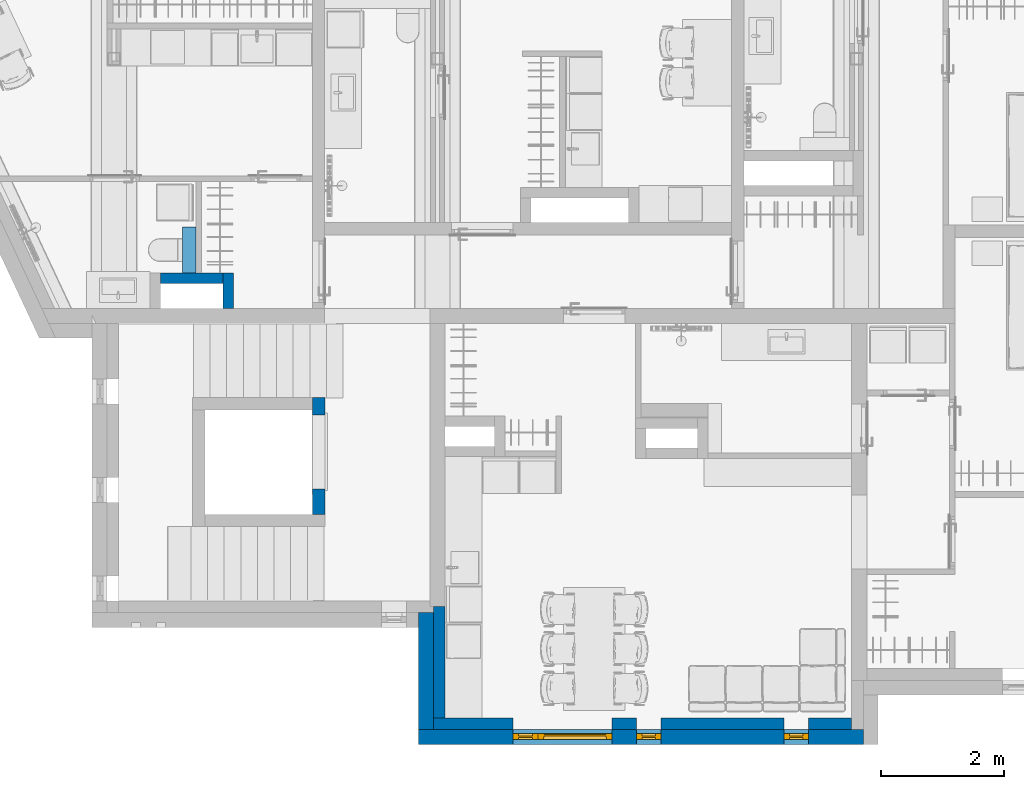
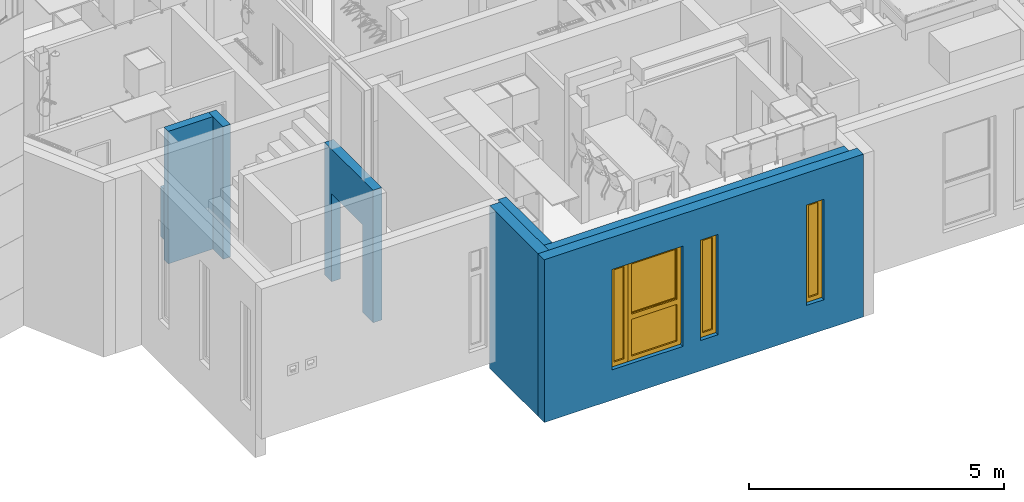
# One storey, part 3 of 125: 8 walls, 4 windows, 18 openings.
"""IFC2X3 building model written with IfcOpenShell, lengths in millimetres."""

from ifc_helpers import new_model, entity, si_unit, converted_unit, direction, frame, frame_2d, origin, origin_2d_with_axis, place, context, subcontext, project, spatial, rectangle, extrude, faceted_brep, source, transform, mapped, material, material_list, layer, layer_set, layer_usage, type_object, type_shapes, element, fill, save


model = new_model("IFC2X3")

# Units and contexts
model_context = context("Model", 3, precision=0.01, world=origin(), true_north=direction((6.123233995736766e-17, 1.0)))
plan_context = context("Plan", 3, precision=0.01, world=origin(), true_north=direction((6.123233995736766e-17, 1.0)))
body_context = subcontext(model_context, "Body", "Model", "MODEL_VIEW")
ifc_project = project(units=[si_unit("LENGTHUNIT", "METRE", prefix="MILLI"), converted_unit("PLANEANGLEUNIT", "DEGREE", entity("IfcPlaneAngleMeasure", 0.017453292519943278), si_unit("PLANEANGLEUNIT", "RADIAN"), dimensions=[0, 0, 0, 0, 0, 0, 0]), si_unit("AREAUNIT", "SQUARE_METRE")], contexts=[model_context, plan_context])

# Site, building, storey
site_placement = place(None, origin())
site = spatial("IfcSite", under=ifc_project, at=site_placement, Name="Default", CompositionType="ELEMENT")
building_placement = place(site_placement, origin())
building = spatial("IfcBuilding", under=site, at=building_placement, CompositionType="ELEMENT")
storey_placement = place(building_placement, frame((0.0, 0.0, 3125.0)))
storey = spatial("IfcBuildingStorey", under=building, at=storey_placement, Name="2K", CompositionType="ELEMENT", Elevation=3125.0)

# Wall, openings
ifc_material_1 = material(Name="_K. Väisviimistlus. Krohv. Valge")
ifc_layer_1 = layer(ifc_material_1, 5.0)
ifc_material_2 = material(Name="_K. Müüritis. Väikeplokk. Betoon-õõnesplokk")
ifc_layer_2 = layer(ifc_material_2, 190.00000000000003)
ifc_layer_3 = layer(ifc_material_1, 5.0)
ifc_layer_set_1 = layer_set([ifc_layer_1, ifc_layer_2, ifc_layer_3], Name="Basic Wall:SS-01. 190")
ifc_layer_usage_1 = layer_usage(ifc_layer_set_1, "AXIS2", "NEGATIVE", 100.00000000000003)
wall_type_1 = type_object("IfcWallType", Name="Basic Wall:SS-01. 190", PredefinedType="STANDARD", material=ifc_layer_set_1)
wall_1_placement = place(storey_placement, frame((3249.9935349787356, 5199.998433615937, 0.0), z_axis=(0.0, 0.0, 1.0), x_axis=(0.0, -1.0, 0.0)))
wall_1 = element("IfcWallStandardCase", 1, at=wall_1_placement, inside=storey, type_object=wall_type_1, material=ifc_layer_usage_1, Name="Basic Wall:SS-01. 190", ObjectType="Basic Wall:SS-01. 190", context=body_context, shape_type="SweptSolid", body=[
    extrude(rectangle(XDim=1900.0045776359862, YDim=200.0, at=frame_2d((950.0022888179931, 0.0), x_axis=(1.0, 0.0))), origin(), (0.0, 0.0, 1.0), 3169.9999999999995),
])
opening_1_placement = place(wall_1_placement, frame((5199.998433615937, -3249.9935349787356, 0.0)))
element("IfcOpeningElement", 2, at=opening_1_placement, cuts=wall_1, Name="Basic Wall:SS-01. 190", ObjectType="Opening", context=body_context, shape_type="SweptSolid", body=[
    extrude(rectangle(XDim=2100.0000000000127, YDim=1200.0, at=frame_2d((-5.684341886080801e-13, 0.0), x_axis=(1.0, 0.0))), frame((-4320.0, 1825.993534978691, 1050.0), z_axis=(0.0, 1.0, 0.0), x_axis=(0.0, 0.0, 1.0)), (0.0, 0.0, 1.0), 3048.0),
])
opening_2_placement = place(wall_1_placement, frame((5199.998433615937, -3249.9935349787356, 3170.0)))
element("IfcOpeningElement", 3, at=opening_2_placement, cuts=wall_1, Name="Basic Wall:SS-01. 190", ObjectType="Opening", context=body_context, shape_type="SweptSolid", body=[
    extrude(rectangle(XDim=2100.000000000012, YDim=1200.0, at=origin_2d_with_axis()), frame((-4320.0, 1825.9935349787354, 1050.0), z_axis=(0.0, 1.0, 0.0), x_axis=(0.0, 0.0, 1.0)), (0.0, 0.0, 1.0), 3048.0),
])

ifc_layer_4 = layer(ifc_material_2, 190.00000000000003)
ifc_layer_set_2 = layer_set([ifc_layer_4], Name="Basic Wall:Columbia 190mm")
ifc_layer_usage_2 = layer_usage(ifc_layer_set_2, "AXIS2", "NEGATIVE", 95.00000000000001)
wall_type_2 = type_object("IfcWallType", Name="Basic Wall:Columbia 190mm", PredefinedType="STANDARD", material=ifc_layer_set_2)
wall_2_placement = place(storey_placement, frame((11900.0, -95.0, 0.0), z_axis=(0.0, 0.0, 1.0), x_axis=(-1.0, 0.0, 0.0)))
wall_2 = element("IfcWallStandardCase", 4, at=wall_2_placement, inside=storey, type_object=wall_type_2, material=ifc_layer_usage_2, Name="Basic Wall:Columbia 190mm", ObjectType="Basic Wall:Columbia 190mm", context=body_context, shape_type="SweptSolid", body=[
    extrude(rectangle(XDim=6790.004939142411, YDim=190.00000000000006, at=frame_2d((3395.0024695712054, 7.105427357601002e-15), x_axis=(-1.0, 0.0))), origin(), (0.0, 0.0, 1.0), 3169.9999999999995),
])
opening_3_placement = place(wall_2_placement, frame((11900.0, -95.0, 0.0)))
element("IfcOpeningElement", 5, at=opening_3_placement, cuts=wall_2, Name="Basic Wall:Columbia 190mm", ObjectType="Opening", context=body_context, shape_type="Brep", body=[
    faceted_brep([(-10800.0, 450.0, 2400.0), (-10800.0, -244.0, 2400.0), (-10800.0, -244.0, 0.0), (-10800.0, 340.0, 0.0), (-10800.0, 350.0, 0.0), (-10800.0, 450.0, 0.0), (-11200.0, 450.0, 2400.0), (-11200.0, -244.0, 2400.0), (-11200.0, 450.0, 0.0), (-11200.0, 350.0, 0.0), (-11200.0, 340.0, 0.0), (-11200.0, -244.0, 0.0)], [[[0, 1, 2, 3, 4, 5]], [[6, 7, 1, 0]], [[8, 9, 10, 11, 7, 6]], [[5, 4, 3, 2, 11, 10, 9, 8]], [[6, 0, 5, 8]], [[7, 11, 2, 1]]]),
])
opening_4_placement = place(wall_2_placement, frame((11900.0, -95.0, 0.0)))
element("IfcOpeningElement", 6, at=opening_4_placement, cuts=wall_2, Name="Basic Wall:Columbia 190mm", ObjectType="Opening", context=body_context, shape_type="Brep", body=[
    faceted_brep([(-8405.0, 450.0, 2400.0), (-8405.0, -244.0, 2400.0), (-8405.0, -244.0, 0.0), (-8405.0, 340.0, 0.0), (-8405.0, 350.0, 0.0), (-8405.0, 450.0, 0.0), (-8805.0, 450.0, 2400.0), (-8805.0, -244.0, 2400.0), (-8805.0, 450.0, 0.0), (-8805.0, 350.0, 0.0), (-8805.0, 340.0, 0.0), (-8805.0, -244.0, 0.0)], [[[0, 1, 2, 3, 4, 5]], [[6, 7, 1, 0]], [[8, 9, 10, 11, 7, 6]], [[5, 4, 3, 2, 11, 10, 9, 8]], [[6, 0, 5, 8]], [[7, 11, 2, 1]]]),
])
opening_5_placement = place(wall_2_placement, frame((11900.0, -95.0, 0.0)))
element("IfcOpeningElement", 7, at=opening_5_placement, cuts=wall_2, Name="Basic Wall:Columbia 190mm", ObjectType="Opening", context=body_context, shape_type="Brep", body=[
    faceted_brep([(-6805.0, 450.0, 2400.0), (-6805.0, -244.0, 2400.0), (-6805.0, -244.0, 0.0), (-6805.0, 340.0, 0.0), (-6805.0, 350.0, 0.0), (-6805.0, 450.0, 0.0), (-8005.0, 450.0, 2400.0), (-8005.0, -244.0, 2400.0), (-8005.0, 450.0, 0.0), (-8005.0, 350.0, 0.0), (-8005.0, 340.0, 0.0), (-8005.0, -244.0, 0.0)], [[[0, 1, 2, 3, 4, 5]], [[6, 7, 1, 0]], [[8, 9, 10, 11, 7, 6]], [[5, 4, 3, 2, 11, 10, 9, 8]], [[6, 0, 5, 8]], [[7, 11, 2, 1]]]),
])
opening_6_placement = place(wall_2_placement, frame((11900.0, -95.0, 3170.0)))
element("IfcOpeningElement", 8, at=opening_6_placement, cuts=wall_2, Name="Basic Wall:Columbia 190mm", ObjectType="Opening", context=body_context, shape_type="Brep", body=[
    faceted_brep([(-9490.0, 450.0, 2400.0), (-9490.0, -244.0, 2400.0), (-9490.0, -244.0, 0.0), (-9490.0, 340.0, 0.0), (-9490.0, 350.0, 0.0), (-9490.0, 450.0, 0.0), (-10690.0, 450.0, 2400.0), (-10690.0, -244.0, 2400.0), (-10690.0, 450.0, 0.0), (-10690.0, 350.0, 0.0), (-10690.0, 340.0, 0.0), (-10690.0, -244.0, 0.0)], [[[0, 1, 2, 3, 4, 5]], [[6, 7, 1, 0]], [[8, 9, 10, 11, 7, 6]], [[5, 4, 3, 2, 11, 10, 9, 8]], [[6, 0, 5, 8]], [[7, 11, 2, 1]]]),
])
opening_7_placement = place(wall_2_placement, frame((11900.0, -95.0, 3170.0)))
element("IfcOpeningElement", 9, at=opening_7_placement, cuts=wall_2, Name="Basic Wall:Columbia 190mm", ObjectType="Opening", context=body_context, shape_type="Brep", body=[
    faceted_brep([(-8390.0, 450.0, 2400.0), (-8390.0, -244.0, 2400.0), (-8390.0, -244.0, 0.0), (-8390.0, 340.0, 0.0), (-8390.0, 350.0, 0.0), (-8390.0, 450.0, 0.0), (-8790.0, 450.0, 2400.0), (-8790.0, -244.0, 2400.0), (-8790.0, 450.0, 0.0), (-8790.0, 350.0, 0.0), (-8790.0, 340.0, 0.0), (-8790.0, -244.0, 0.0)], [[[0, 1, 2, 3, 4, 5]], [[6, 7, 1, 0]], [[8, 9, 10, 11, 7, 6]], [[5, 4, 3, 2, 11, 10, 9, 8]], [[6, 0, 5, 8]], [[7, 11, 2, 1]]]),
])
opening_8_placement = place(wall_2_placement, frame((11900.0, -95.0, 3170.0)))
element("IfcOpeningElement", 10, at=opening_8_placement, cuts=wall_2, Name="Basic Wall:Columbia 190mm", ObjectType="Opening", context=body_context, shape_type="Brep", body=[
    faceted_brep([(-6010.0, 450.0, 2400.0), (-6010.0, -244.0, 2400.0), (-6010.0, -244.0, 0.0), (-6010.0, 340.0, 0.0), (-6010.0, 350.0, 0.0), (-6010.0, 450.0, 0.0), (-6410.0, 450.0, 2400.0), (-6410.0, -244.0, 2400.0), (-6410.0, 450.0, 0.0), (-6410.0, 350.0, 0.0), (-6410.0, 340.0, 0.0), (-6410.0, -244.0, 0.0)], [[[0, 1, 2, 3, 4, 5]], [[6, 7, 1, 0]], [[8, 9, 10, 11, 7, 6]], [[5, 4, 3, 2, 11, 10, 9, 8]], [[6, 0, 5, 8]], [[7, 11, 2, 1]]]),
])
opening_9_placement = place(wall_2_placement, frame((11900.0, -95.0, 3170.0)))
element("IfcOpeningElement", 11, at=opening_9_placement, cuts=wall_2, Name="Basic Wall:Columbia 190mm", ObjectType="Opening", context=body_context, shape_type="Brep", body=[
    faceted_brep([(-9090.0, 450.0, 2400.0), (-9090.0, -244.0, 2400.0), (-9090.0, -244.0, 0.0), (-9090.0, 340.0, 0.0), (-9090.0, 350.0, 0.0), (-9090.0, 450.0, 0.0), (-9490.0, 450.0, 2400.0), (-9490.0, -244.0, 2400.0), (-9490.0, 450.0, 0.0), (-9490.0, 350.0, 0.0), (-9490.0, 340.0, 0.0), (-9490.0, -244.0, 0.0)], [[[0, 1, 2, 3, 4, 5]], [[6, 7, 1, 0]], [[8, 9, 10, 11, 7, 6]], [[5, 4, 3, 2, 11, 10, 9, 8]], [[6, 0, 5, 8]], [[7, 11, 2, 1]]]),
])
opening_10_placement = place(wall_2_placement, frame((11900.0, -95.0, 0.0)))
element("IfcOpeningElement", 12, at=opening_10_placement, cuts=wall_2, Name="Basic Wall:Columbia 190mm", ObjectType="Opening", context=body_context, shape_type="Brep", body=[
    faceted_brep([(-6405.0, 450.0, 2400.0), (-6405.0, -244.0, 2400.0), (-6405.0, -244.0, 0.0), (-6405.0, 340.0, 0.0), (-6405.0, 350.0, 0.0), (-6405.0, 450.0, 0.0), (-6805.0, 450.0, 2400.0), (-6805.0, -244.0, 2400.0), (-6805.0, 450.0, 0.0), (-6805.0, 350.0, 0.0), (-6805.0, 340.0, 0.0), (-6805.0, -244.0, 0.0)], [[[0, 1, 2, 3, 4, 5]], [[6, 7, 1, 0]], [[8, 9, 10, 11, 7, 6]], [[5, 4, 3, 2, 11, 10, 9, 8]], [[6, 0, 5, 8]], [[7, 11, 2, 1]]]),
])

# Wall
ifc_layer_usage_3 = layer_usage(ifc_layer_set_2, "AXIS2", "NEGATIVE", 95.00000000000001)
wall_3_placement = place(storey_placement, frame((5204.995060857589, 0.0, 0.0), z_axis=(0.0, 0.0, 1.0), x_axis=(0.0, 1.0, 0.0)))
element("IfcWallStandardCase", 13, at=wall_3_placement, inside=storey, type_object=wall_type_2, material=ifc_layer_usage_3, Name="Basic Wall:Columbia 190mm", ObjectType="Basic Wall:Columbia 190mm", context=body_context, shape_type="SweptSolid", body=[
    extrude(rectangle(XDim=1804.9999999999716, YDim=190.0000000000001, at=frame_2d((902.4999999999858, -8.526512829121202e-14), x_axis=(-1.0, 0.0))), origin(), (0.0, 0.0, 1.0), 3169.9999999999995),
])

# Wall, openings, windows
ifc_layer_5 = layer(ifc_material_1, 10.0)
ifc_material_3 = material(Name="_K. Soojustus. EPS Silver")
ifc_layer_6 = layer(ifc_material_3, 230.0)
ifc_layer_set_3 = layer_set([ifc_layer_5, ifc_layer_6], Name="Basic Wall:VS-01")
ifc_layer_usage_4 = layer_usage(ifc_layer_set_3, "AXIS2", "NEGATIVE", 120.0)
wall_type_3 = type_object("IfcWallType", Name="Basic Wall:VS-01", PredefinedType="STANDARD", material=ifc_layer_set_3)
wall_4_placement = place(storey_placement, frame((12090.0, -310.0, -725.0), z_axis=(0.0, 0.0, 1.0), x_axis=(-1.0, 0.0, 0.0)))
wall_4 = element("IfcWallStandardCase", 14, at=wall_4_placement, inside=storey, type_object=wall_type_3, material=ifc_layer_usage_4, Name="Basic Wall:VS-01", ObjectType="Basic Wall:VS-01", context=body_context, shape_type="SweptSolid", body=[
    extrude(rectangle(XDim=7220.000000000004, YDim=240.00000000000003, at=frame_2d((3610.000000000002, 1.4210854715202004e-14), x_axis=(-1.0, 0.0))), origin(), (0.0, 0.0, 1.0), 3895.0000000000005),
])
opening_11_placement = place(wall_4_placement, frame((12090.0, -310.0, 3895.0)))
element("IfcOpeningElement", 15, at=opening_11_placement, cuts=wall_4, Name="Basic Wall:VS-01", ObjectType="Opening", context=body_context, shape_type="Brep", body=[
    faceted_brep([(-9490.0, 450.0, 2400.0), (-9490.0, -244.0, 2400.0), (-9490.0, -244.0, 0.0), (-9490.0, 340.0, 0.0), (-9490.0, 350.0, 0.0), (-9490.0, 450.0, 0.0), (-10690.0, 450.0, 2400.0), (-10690.0, -244.0, 2400.0), (-10690.0, 450.0, 0.0), (-10690.0, 350.0, 0.0), (-10690.0, 340.0, 0.0), (-10690.0, -244.0, 0.0)], [[[0, 1, 2, 3, 4, 5]], [[6, 7, 1, 0]], [[8, 9, 10, 11, 7, 6]], [[5, 4, 3, 2, 11, 10, 9, 8]], [[6, 0, 5, 8]], [[7, 11, 2, 1]]]),
])
opening_12_placement = place(wall_4_placement, frame((12090.0, -310.0, 3895.0)))
element("IfcOpeningElement", 16, at=opening_12_placement, cuts=wall_4, Name="Basic Wall:VS-01", ObjectType="Opening", context=body_context, shape_type="Brep", body=[
    faceted_brep([(-8390.0, 450.0, 2400.0), (-8390.0, -244.0, 2400.0), (-8390.0, -244.0, 0.0), (-8390.0, 340.0, 0.0), (-8390.0, 350.0, 0.0), (-8390.0, 450.0, 0.0), (-8790.0, 450.0, 2400.0), (-8790.0, -244.0, 2400.0), (-8790.0, 450.0, 0.0), (-8790.0, 350.0, 0.0), (-8790.0, 340.0, 0.0), (-8790.0, -244.0, 0.0)], [[[0, 1, 2, 3, 4, 5]], [[6, 7, 1, 0]], [[8, 9, 10, 11, 7, 6]], [[5, 4, 3, 2, 11, 10, 9, 8]], [[6, 0, 5, 8]], [[7, 11, 2, 1]]]),
])
opening_13_placement = place(wall_4_placement, frame((12090.0, -310.0, 3895.0)))
element("IfcOpeningElement", 17, at=opening_13_placement, cuts=wall_4, Name="Basic Wall:VS-01", ObjectType="Opening", context=body_context, shape_type="Brep", body=[
    faceted_brep([(-6010.0, 450.0, 2400.0), (-6010.0, -244.0, 2400.0), (-6010.0, -244.0, 0.0), (-6010.0, 340.0, 0.0), (-6010.0, 350.0, 0.0), (-6010.0, 450.0, 0.0), (-6410.0, 450.0, 2400.0), (-6410.0, -244.0, 2400.0), (-6410.0, 450.0, 0.0), (-6410.0, 350.0, 0.0), (-6410.0, 340.0, 0.0), (-6410.0, -244.0, 0.0)], [[[0, 1, 2, 3, 4, 5]], [[6, 7, 1, 0]], [[8, 9, 10, 11, 7, 6]], [[5, 4, 3, 2, 11, 10, 9, 8]], [[6, 0, 5, 8]], [[7, 11, 2, 1]]]),
])
opening_14_placement = place(wall_4_placement, frame((12090.0, -310.0, 3895.0)))
element("IfcOpeningElement", 18, at=opening_14_placement, cuts=wall_4, Name="Basic Wall:VS-01", ObjectType="Opening", context=body_context, shape_type="Brep", body=[
    faceted_brep([(-9090.0, 450.0, 2400.0), (-9090.0, -244.0, 2400.0), (-9090.0, -244.0, 0.0), (-9090.0, 340.0, 0.0), (-9090.0, 350.0, 0.0), (-9090.0, 450.0, 0.0), (-9490.0, 450.0, 2400.0), (-9490.0, -244.0, 2400.0), (-9490.0, 450.0, 0.0), (-9490.0, 350.0, 0.0), (-9490.0, 340.0, 0.0), (-9490.0, -244.0, 0.0)], [[[0, 1, 2, 3, 4, 5]], [[6, 7, 1, 0]], [[8, 9, 10, 11, 7, 6]], [[5, 4, 3, 2, 11, 10, 9, 8]], [[6, 0, 5, 8]], [[7, 11, 2, 1]]]),
])
opening_15_placement = place(wall_4_placement, frame((12090.0, -310.0, 725.0), z_axis=(0.0, 0.0, 1.0), x_axis=(-1.0, 0.0, 0.0)))
opening_15 = element("IfcOpeningElement", 19, at=opening_15_placement, cuts=wall_4, Name="Basic Wall:VS-01", ObjectType="Opening", context=body_context, shape_type="Brep", body=[
    faceted_brep([(10800.0, -450.0, 2400.0), (10800.0, 244.0, 2400.0), (10800.0, 244.0, 0.0), (10800.0, -340.0, 0.0), (10800.0, -350.0, 0.0), (10800.0, -450.0, 0.0), (11200.0, -450.0, 2400.0), (11200.0, 244.0, 2400.0), (11200.0, -450.0, 0.0), (11200.0, -350.0, 0.0), (11200.0, -340.0, 0.0), (11200.0, 244.0, 0.0)], [[[0, 1, 2, 3, 4, 5]], [[6, 7, 1, 0]], [[8, 9, 10, 11, 7, 6]], [[5, 4, 3, 2, 11, 10, 9, 8]], [[6, 0, 5, 8]], [[7, 11, 2, 1]]]),
])
opening_16_placement = place(wall_4_placement, frame((12090.0, -310.0, 725.0), z_axis=(0.0, 0.0, 1.0), x_axis=(-1.0, 0.0, 0.0)))
opening_16 = element("IfcOpeningElement", 20, at=opening_16_placement, cuts=wall_4, Name="Basic Wall:VS-01", ObjectType="Opening", context=body_context, shape_type="Brep", body=[
    faceted_brep([(8405.0, -450.0, 2400.0), (8405.0, 244.0, 2400.0), (8405.0, 244.0, 0.0), (8405.0, -340.0, 0.0), (8405.0, -350.0, 0.0), (8405.0, -450.0, 0.0), (8805.0, -450.0, 2400.0), (8805.0, 244.0, 2400.0), (8805.0, -450.0, 0.0), (8805.0, -350.0, 0.0), (8805.0, -340.0, 0.0), (8805.0, 244.0, 0.0)], [[[0, 1, 2, 3, 4, 5]], [[6, 7, 1, 0]], [[8, 9, 10, 11, 7, 6]], [[5, 4, 3, 2, 11, 10, 9, 8]], [[6, 0, 5, 8]], [[7, 11, 2, 1]]]),
])
opening_17_placement = place(wall_4_placement, frame((12090.0, -310.0, 725.0), z_axis=(0.0, 0.0, 1.0), x_axis=(-1.0, 0.0, 0.0)))
opening_17 = element("IfcOpeningElement", 21, at=opening_17_placement, cuts=wall_4, Name="Basic Wall:VS-01", ObjectType="Opening", context=body_context, shape_type="Brep", body=[
    faceted_brep([(6805.0, -450.0, 2400.0), (6805.0, 244.0, 2400.0), (6805.0, 244.0, 0.0), (6805.0, -340.0, 0.0), (6805.0, -350.0, 0.0), (6805.0, -450.0, 0.0), (8005.0, -450.0, 2400.0), (8005.0, 244.0, 2400.0), (8005.0, -450.0, 0.0), (8005.0, -350.0, 0.0), (8005.0, -340.0, 0.0), (8005.0, 244.0, 0.0)], [[[0, 1, 2, 3, 4, 5]], [[6, 7, 1, 0]], [[8, 9, 10, 11, 7, 6]], [[5, 4, 3, 2, 11, 10, 9, 8]], [[6, 0, 5, 8]], [[7, 11, 2, 1]]]),
])
opening_18_placement = place(wall_4_placement, frame((12090.0, -310.0, 725.0), z_axis=(0.0, 0.0, 1.0), x_axis=(-1.0, 0.0, 0.0)))
opening_18 = element("IfcOpeningElement", 22, at=opening_18_placement, cuts=wall_4, Name="Basic Wall:VS-01", ObjectType="Opening", context=body_context, shape_type="Brep", body=[
    faceted_brep([(6405.0, -450.0, 2400.0), (6405.0, 244.0, 2400.0), (6405.0, 244.0, 0.0), (6405.0, -340.0, 0.0), (6405.0, -350.0, 0.0), (6405.0, -450.0, 0.0), (6805.0, -450.0, 2400.0), (6805.0, 244.0, 2400.0), (6805.0, -450.0, 0.0), (6805.0, -350.0, 0.0), (6805.0, -340.0, 0.0), (6805.0, 244.0, 0.0)], [[[0, 1, 2, 3, 4, 5]], [[6, 7, 1, 0]], [[8, 9, 10, 11, 7, 6]], [[5, 4, 3, 2, 11, 10, 9, 8]], [[6, 0, 5, 8]], [[7, 11, 2, 1]]]),
])
ifc_material_4 = material(Name="_K. Klaas. Pakett")
ifc_material_5 = material(Name="_K. Avatäited. Raam. PVC. RAL9005")
ifc_material_6 = material(Name="_K. Avatäited. Raam. PVC. Valge")
ifc_material_list_1 = material_list([ifc_material_4, ifc_material_5, ifc_material_6])
window_style_1 = type_object("IfcWindowStyle", Name="HR_Window_Generic_Rectangle_1x2:A-13.1200x2400.P", ConstructionType="NOTDEFINED", OperationType="NOTDEFINED", ParameterTakesPrecedence=False, Sizeable=False, material=ifc_material_list_1)
shared_shape_1 = source(origin(), body_context, "Body", "Brep", [
    faceted_brep([(78.0, -154.0, 2322.0), (1122.0, -154.0, 2322.0), (1122.0, -154.0, 1101.0), (78.0, -154.0, 1101.0), (1122.0, -179.0, 2322.0), (1122.0, -179.0, 1101.0), (78.0, -179.0, 1101.0), (78.0, -179.0, 2322.0)], [[[0, 1, 2, 3]], [[2, 1, 4, 5]], [[3, 2, 5, 6]], [[0, 3, 6, 7]], [[7, 6, 5, 4]], [[1, 0, 7, 4]]]),
    faceted_brep([(1122.0, -154.0, 2322.0), (1122.0, -154.0, 1101.0), (1122.0, -179.0, 1101.0), (1122.0, -179.0, 2322.0), (1142.0, -134.0, 2342.0), (58.0, -134.0, 2342.0), (58.0, -194.0, 2342.0), (1142.0, -194.0, 2342.0), (98.0, -154.0, 2302.0), (98.0, -134.0, 2302.0), (1102.0, -134.0, 2302.0), (1102.0, -154.0, 2302.0), (98.0, -179.0, 2302.0), (98.0, -194.0, 2302.0), (98.0, -194.0, 1121.0), (98.0, -179.0, 1121.0), (1142.0, -134.0, 1081.0), (1142.0, -194.0, 1081.0), (58.0, -194.0, 1081.0), (58.0, -134.0, 1081.0), (1102.0, -194.0, 2302.0), (1102.0, -194.0, 1121.0), (98.0, -134.0, 1121.0), (1102.0, -134.0, 1121.0), (98.0, -154.0, 1121.0), (1102.0, -154.0, 1121.0), (78.0, -154.0, 1101.0), (78.0, -179.0, 1101.0), (78.0, -154.0, 2322.0), (78.0, -179.0, 2322.0), (1102.0, -179.0, 2302.0), (1102.0, -179.0, 1121.0)], [[[0, 1, 2, 3]], [[4, 5, 6, 7]], [[8, 9, 10, 11]], [[12, 13, 14, 15]], [[16, 17, 18, 19]], [[4, 7, 17, 16]], [[13, 20, 21, 14], [7, 6, 18, 17]], [[6, 5, 19, 18]], [[5, 4, 16, 19], [10, 9, 22, 23]], [[9, 8, 24, 22]], [[25, 23, 22, 24]], [[11, 10, 23, 25]], [[1, 26, 27, 2]], [[26, 28, 29, 27]], [[28, 26, 1, 0], [8, 11, 25, 24]], [[28, 0, 3, 29]], [[20, 30, 31, 21]], [[21, 31, 15, 14]], [[29, 3, 2, 27], [30, 12, 15, 31]], [[13, 12, 30, 20]]], outer=[[True], [True], [True], [True], [True], [True], [False, True], [True], [True, False], [True], [True], [True], [True], [True], [True, False], [True], [True], [True], [True, False], [True]]),
    faceted_brep([(88.0, -194.0, 989.0), (1112.0, -194.0, 989.0), (1112.0, -194.0, 108.0), (88.0, -194.0, 108.0), (1142.0, -194.0, 1019.0), (58.0, -194.0, 1019.0), (58.0, -194.0, 78.0), (1142.0, -194.0, 78.0), (88.0, -159.0, 989.0), (88.0, -159.0, 108.0), (1112.0, -159.0, 108.0), (1142.0, -159.0, 1019.0), (1142.0, -159.0, 78.0), (58.0, -159.0, 78.0), (58.0, -159.0, 1019.0), (1112.0, -159.0, 989.0)], [[[0, 1, 2, 3], [4, 5, 6, 7]], [[8, 0, 3, 9]], [[9, 3, 2, 10]], [[11, 12, 13, 14], [15, 8, 9, 10]], [[1, 15, 10, 2]], [[6, 5, 14, 13]], [[7, 6, 13, 12]], [[4, 7, 12, 11]], [[15, 1, 0, 8]], [[5, 4, 11, 14]]], outer=[[False, True], [True], [True], [True, False], [True], [True], [True], [True], [True], [True]]),
    faceted_brep([(1142.0, -159.0, 1019.0), (58.0, -159.0, 1019.0), (58.0, -159.0, 78.0), (1142.0, -159.0, 78.0), (58.0, -134.0, 1019.0), (58.0, -134.0, 78.0), (1142.0, -134.0, 78.0), (1142.0, -134.0, 1019.0)], [[[0, 1, 2, 3]], [[2, 1, 4, 5]], [[3, 2, 5, 6]], [[0, 3, 6, 7]], [[7, 6, 5, 4]], [[1, 0, 7, 4]]]),
    faceted_brep([(58.0, -134.0, 2342.0), (58.0, -134.0, 1081.0), (1142.0, -134.0, 1081.0), (1142.0, -134.0, 2342.0), (88.0, -134.0, 2312.0), (1112.0, -134.0, 2312.0), (1112.0, -134.0, 1111.0), (88.0, -134.0, 1111.0), (1142.0, -134.0, 1019.0), (1142.0, -134.0, 78.0), (1142.0, -194.0, 78.0), (1142.0, -194.0, 1019.0), (58.0, -134.0, 78.0), (58.0, -134.0, 1019.0), (58.0, -194.0, 1019.0), (58.0, -194.0, 78.0), (1112.0, -100.0, 108.0), (88.0, -100.0, 108.0), (88.0, -134.0, 108.0), (1112.0, -134.0, 108.0), (88.0, -100.0, 989.0), (88.0, -134.0, 989.0), (1112.0, -100.0, 989.0), (1112.0, -134.0, 989.0), (1200.0, -194.0, 2400.0), (0.0, -194.0, 2400.0), (0.0, -194.0, 30.0), (1200.0, -194.0, 30.0), (58.0, -194.0, 2342.0), (1142.0, -194.0, 2342.0), (1142.0, -194.0, 1081.0), (58.0, -194.0, 1081.0), (0.0, -100.0, 2400.0), (0.0, -100.0, 30.0), (0.0, -110.0, 30.0), (0.0, -110.0, 0.0), (0.0, -184.0, 0.0), (0.0, -184.0, 30.0), (1200.0, -184.0, 30.0), (1200.0, -100.0, 2400.0), (1200.0, -184.0, 0.0), (1200.0, -110.0, 0.0), (1200.0, -110.0, 30.0), (1200.0, -100.0, 30.0), (88.0, -100.0, 2312.0), (88.0, -100.0, 1111.0), (1112.0, -100.0, 1111.0), (1112.0, -100.0, 2312.0)], [[[0, 1, 2, 3], [4, 5, 6, 7]], [[8, 9, 10, 11]], [[12, 13, 14, 15]], [[9, 12, 15, 10]], [[16, 17, 18, 19]], [[17, 20, 21, 18]], [[22, 16, 19, 23]], [[11, 10, 15, 14], [24, 25, 26, 27], [28, 29, 30, 31]], [[25, 32, 33, 34, 35, 36, 37, 26]], [[37, 38, 27, 26]], [[39, 24, 27, 38, 40, 41, 42, 43]], [[17, 16, 22, 20], [32, 39, 43, 33], [44, 45, 46, 47]], [[42, 34, 33, 43]], [[34, 42, 41, 35]], [[35, 41, 40, 36]], [[38, 37, 36, 40]], [[25, 24, 39, 32]], [[44, 47, 5, 4]], [[47, 46, 6, 5]], [[45, 44, 4, 7]], [[0, 3, 29, 28]], [[3, 2, 30, 29]], [[13, 8, 11, 14]], [[1, 0, 28, 31]], [[2, 1, 31, 30]], [[46, 45, 7, 6]], [[20, 22, 23, 21]], [[9, 8, 13, 12], [19, 18, 21, 23]]], outer=[[True, False], [True], [True], [True], [True], [True], [True], [False, True, False], [True], [True], [True], [False, True, False], [True], [True], [True], [True], [True], [True], [True], [True], [True], [True], [True], [True], [True], [True], [True], [True, False]]),
])
type_shapes(window_style_1, [shared_shape_1])
window_1_placement = place(opening_17_placement, frame((8005.0, -450.0, 0.0), z_axis=(0.0, 0.0, 1.0), x_axis=(-1.0, 0.0, 0.0)))
window_1 = element("IfcWindow", 23, at=window_1_placement, inside=storey, type_object=window_style_1, material=ifc_material_list_1, Name="HR_Window_Generic_Rectangle_1x2:A-13.1200x2400.P", ObjectType="HR_Window_Generic_Rectangle_1x2:A-13.1200x2400.P", OverallHeight=2465.0000000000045, OverallWidth=1200.0000000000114, context=body_context, shape_type="MappedRepresentation", body=[
    mapped(shared_shape_1, transform((0.0, 0.0, 0.0), scale=1.0)),
])
fill(opening_17, window_1)
ifc_material_list_2 = material_list([ifc_material_6, ifc_material_4, ifc_material_5])
window_style_2 = type_object("IfcWindowStyle", Name="HR_Window_Generic_Rectangle_1x1:A-01.400x2400.ma", ConstructionType="NOTDEFINED", OperationType="NOTDEFINED", ParameterTakesPrecedence=False, Sizeable=False, material=ifc_material_list_2)
shared_shape_2 = source(origin(), body_context, "Body", "Brep", [
    faceted_brep([(88.0, -194.0, 2312.0), (312.0, -194.0, 2312.0), (312.0, -194.0, 108.0), (88.0, -194.0, 108.0), (342.0, -194.0, 2342.0), (58.0, -194.0, 2342.0), (58.0, -194.0, 78.0), (342.0, -194.0, 78.0), (88.0, -159.0, 2312.0), (88.0, -159.0, 108.0), (312.0, -159.0, 108.0), (342.0, -159.0, 2342.0), (342.0, -159.0, 78.0), (58.0, -159.0, 78.0), (58.0, -159.0, 2342.0), (312.0, -159.0, 2312.0)], [[[0, 1, 2, 3], [4, 5, 6, 7]], [[8, 0, 3, 9]], [[9, 3, 2, 10]], [[11, 12, 13, 14], [15, 8, 9, 10]], [[1, 15, 10, 2]], [[6, 5, 14, 13]], [[7, 6, 13, 12]], [[4, 7, 12, 11]], [[15, 1, 0, 8]], [[5, 4, 11, 14]]], outer=[[False, True], [True], [True], [True, False], [True], [True], [True], [True], [True], [True]]),
    faceted_brep([(342.0, -159.0, 2342.0), (58.0, -159.0, 2342.0), (58.0, -159.0, 78.0), (342.0, -159.0, 78.0), (58.0, -134.0, 2342.0), (58.0, -134.0, 78.0), (342.0, -134.0, 78.0), (342.0, -134.0, 2342.0)], [[[0, 1, 2, 3]], [[2, 1, 4, 5]], [[3, 2, 5, 6]], [[0, 3, 6, 7]], [[7, 6, 5, 4]], [[1, 0, 7, 4]]]),
    faceted_brep([(342.0, -134.0, 78.0), (58.0, -134.0, 78.0), (58.0, -194.0, 78.0), (342.0, -194.0, 78.0), (58.0, -134.0, 2342.0), (58.0, -194.0, 2342.0), (342.0, -134.0, 2342.0), (342.0, -194.0, 2342.0), (88.0, -100.0, 108.0), (88.0, -100.0, 2312.0), (88.0, -134.0, 2312.0), (88.0, -134.0, 108.0), (312.0, -100.0, 108.0), (312.0, -134.0, 108.0), (312.0, -100.0, 2312.0), (312.0, -134.0, 2312.0), (0.0, -100.0, 2400.0), (400.0, -100.0, 2400.0), (400.0, -100.0, 30.0), (0.0, -100.0, 30.0), (400.0, -194.0, 2400.0), (0.0, -194.0, 2400.0), (0.0, -194.0, 30.0), (400.0, -194.0, 30.0), (0.0, -110.0, 30.0), (0.0, -110.0, 0.0), (0.0, -184.0, 0.0), (0.0, -184.0, 30.0), (400.0, -184.0, 30.0), (400.0, -184.0, 0.0), (400.0, -110.0, 0.0), (400.0, -110.0, 30.0)], [[[0, 1, 2, 3]], [[1, 4, 5, 2]], [[6, 0, 3, 7]], [[8, 9, 10, 11]], [[12, 8, 11, 13]], [[14, 12, 13, 15]], [[16, 17, 18, 19], [9, 8, 12, 14]], [[20, 21, 22, 23], [7, 3, 2, 5]], [[21, 16, 19, 24, 25, 26, 27, 22]], [[27, 28, 23, 22]], [[17, 20, 23, 28, 29, 30, 31, 18]], [[31, 24, 19, 18]], [[24, 31, 30, 25]], [[25, 30, 29, 26]], [[28, 27, 26, 29]], [[4, 6, 7, 5]], [[9, 14, 15, 10]], [[21, 20, 17, 16]], [[10, 15, 13, 11], [0, 6, 4, 1]]], outer=[[True], [True], [True], [True], [True], [True], [True, False], [True, False], [True], [True], [True], [True], [True], [True], [True], [True], [True], [True], [False, True]]),
])
type_shapes(window_style_2, [shared_shape_2])
window_2_placement = place(opening_15_placement, frame((11200.0, -450.0, 0.0), z_axis=(0.0, 0.0, 1.0), x_axis=(-1.0, 0.0, 0.0)))
window_2 = element("IfcWindow", 24, at=window_2_placement, inside=storey, type_object=window_style_2, material=ifc_material_list_2, Name="HR_Window_Generic_Rectangle_1x1:A-01.400x2400.ma", ObjectType="HR_Window_Generic_Rectangle_1x1:A-01.400x2400.ma", OverallHeight=2465.0000000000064, OverallWidth=400.0000000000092, context=body_context, shape_type="MappedRepresentation", body=[
    mapped(shared_shape_2, transform((0.0, 0.0, 0.0), scale=1.0)),
])
fill(opening_15, window_2)
window_3_placement = place(opening_16_placement, frame((8805.0, -450.0, 0.0), z_axis=(0.0, 0.0, 1.0), x_axis=(-1.0, 0.0, 0.0)))
window_3 = element("IfcWindow", 25, at=window_3_placement, inside=storey, type_object=window_style_2, material=ifc_material_list_2, Name="HR_Window_Generic_Rectangle_1x1:A-01.400x2400.ma", ObjectType="HR_Window_Generic_Rectangle_1x1:A-01.400x2400.ma", OverallHeight=2465.0000000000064, OverallWidth=400.0000000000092, context=body_context, shape_type="MappedRepresentation", body=[
    mapped(shared_shape_2, transform((0.0, 0.0, 0.0), scale=1.0)),
])
fill(opening_16, window_3)
window_4_placement = place(opening_18_placement, frame((6805.0, -450.0, 0.0), z_axis=(0.0, 0.0, 1.0), x_axis=(-1.0, 0.0, 0.0)))
window_4 = element("IfcWindow", 26, at=window_4_placement, inside=storey, type_object=window_style_2, material=ifc_material_list_2, Name="HR_Window_Generic_Rectangle_1x1:A-01.400x2400.ma", ObjectType="HR_Window_Generic_Rectangle_1x1:A-01.400x2400.ma", OverallHeight=2465.0000000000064, OverallWidth=400.0000000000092, context=body_context, shape_type="MappedRepresentation", body=[
    mapped(shared_shape_2, transform((0.0, 0.0, 0.0), scale=1.0)),
])
fill(opening_18, window_4)

# Walls
ifc_layer_usage_5 = layer_usage(ifc_layer_set_3, "AXIS2", "NEGATIVE", 120.0)
wall_5_placement = place(storey_placement, frame((4990.0, -190.0, -725.0), z_axis=(0.0, 0.0, 1.0), x_axis=(0.0, 1.0, 0.0)))
element("IfcWallStandardCase", 27, at=wall_5_placement, inside=storey, type_object=wall_type_3, material=ifc_layer_usage_5, Name="Basic Wall:VS-01", ObjectType="Basic Wall:VS-01", context=body_context, shape_type="SweptSolid", body=[
    extrude(rectangle(XDim=1899.999999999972, YDim=239.99999999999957, at=frame_2d((949.999999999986, 8.526512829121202e-14), x_axis=(-1.0, 0.0))), origin(), (0.0, 0.0, 1.0), 3894.999999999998),
])
ifc_layer_7 = layer(ifc_material_1, 10.0)
ifc_material_7 = material(Name="_K. Müüritis. Väikeplokk. Kergkruusplokk")
ifc_layer_8 = layer(ifc_material_7, 150.0)
ifc_layer_9 = layer(ifc_material_1, 10.0)
ifc_layer_set_4 = layer_set([ifc_layer_7, ifc_layer_8, ifc_layer_9], Name="Basic Wall:SS-03. Šahti sein")
ifc_layer_usage_6 = layer_usage(ifc_layer_set_4, "AXIS2", "NEGATIVE", 85.00000000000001)
wall_type_4 = type_object("IfcWallType", Name="Basic Wall:SS-03. Šahti sein", PredefinedType="STANDARD", material=ifc_layer_set_4)
wall_6_placement = place(storey_placement, frame((680.0, 7135.0, 0.0)))
element("IfcWallStandardCase", 28, at=wall_6_placement, inside=storey, type_object=wall_type_4, material=ifc_layer_usage_6, Name="Basic Wall:SS-03. Šahti sein", ObjectType="Basic Wall:SS-03. Šahti sein", context=body_context, shape_type="SweptSolid", body=[
    extrude(rectangle(XDim=1010.0000000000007, YDim=170.00000000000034, at=frame_2d((505.00000000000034, 0.0), x_axis=(-1.0, 0.0))), origin(), (0.0, 0.0, 1.0), 3169.9999999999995),
])
ifc_layer_usage_7 = layer_usage(ifc_layer_set_4, "AXIS2", "NEGATIVE", 85.00000000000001)
wall_7_placement = place(storey_placement, frame((1775.0, 7220.0, 0.0), z_axis=(0.0, 0.0, 1.0), x_axis=(0.0, -1.0, 0.0)))
element("IfcWallStandardCase", 29, at=wall_7_placement, inside=storey, type_object=wall_type_4, material=ifc_layer_usage_7, Name="Basic Wall:SS-03. Šahti sein", ObjectType="Basic Wall:SS-03. Šahti sein", context=body_context, shape_type="SweptSolid", body=[
    extrude(rectangle(XDim=570.0000405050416, YDim=169.99999999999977, at=frame_2d((285.0000202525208, -2.1316282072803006e-14), x_axis=(-1.0, 0.0))), origin(), (0.0, 0.0, 1.0), 3169.9999999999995),
])
ifc_material_8 = material(Name="_K. Ehitusplaat. Kipsplaat. Erikõva")
ifc_layer_10 = layer(ifc_material_8, 13.000000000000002)
ifc_material_9 = material(Name="_K. Õhk. Roov. Fassaadikatte alusroov. Vertikaalne. 25 mm")
ifc_layer_11 = layer(ifc_material_9, 200.0)
ifc_layer_set_5 = layer_set([ifc_layer_10, ifc_layer_11], Name="Basic Wall:SS-403")
ifc_layer_usage_8 = layer_usage(ifc_layer_set_5, "AXIS2", "POSITIVE", -106.5)
wall_type_5 = type_object("IfcWallType", Name="Basic Wall:SS-403", PredefinedType="STANDARD", material=ifc_layer_set_5)
wall_8_placement = place(storey_placement, frame((1146.4935349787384, 7970.0, -20.0), z_axis=(0.0, 0.0, 1.0), x_axis=(0.0, -1.0, 0.0)))
element("IfcWallStandardCase", 30, at=wall_8_placement, inside=storey, type_object=wall_type_5, material=ifc_layer_usage_8, Name="Basic Wall:SS-403", ObjectType="Basic Wall:SS-403", context=body_context, shape_type="SweptSolid", body=[
    extrude(rectangle(XDim=750.0000000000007, YDim=213.00000000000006, at=frame_2d((375.00000000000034, 2.842170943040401e-14), x_axis=(-1.0, 0.0))), origin(), (0.0, 0.0, 1.0), 1200.0),
])

save(model, "model.ifc")
